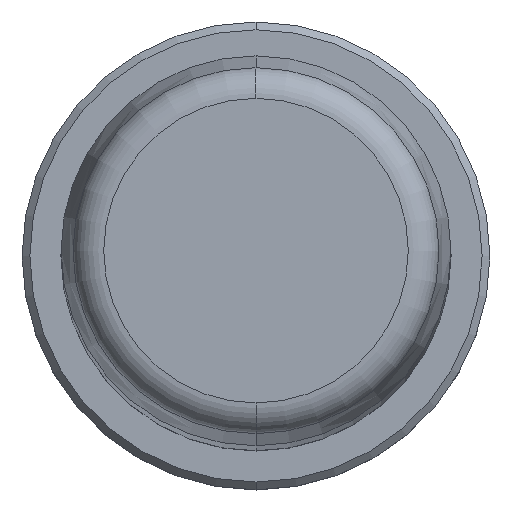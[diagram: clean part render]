
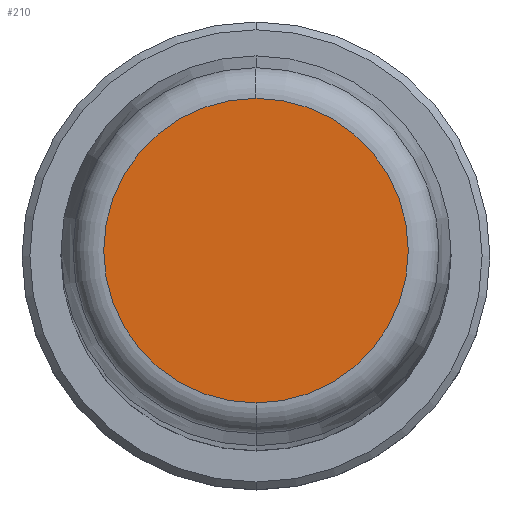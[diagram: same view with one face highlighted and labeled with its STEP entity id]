
A CAD part, top view. The second image highlights one B-rep face of the part: STEP entity #210.
In plain terms, the highlighted planar face has unit normal (0, 0, 1).
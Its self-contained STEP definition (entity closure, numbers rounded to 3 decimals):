
#1=CARTESIAN_POINT('',(0.,0.,200.));
#2=DIRECTION('',(0.,0.,-1.));
#3=DIRECTION('',(0.,-1.,0.));
#4=AXIS2_PLACEMENT_3D('',#1,#2,#3);
#6=CARTESIAN_POINT('',(0.,0.,200.));
#7=DIRECTION('',(0.,0.,-1.));
#8=DIRECTION('',(0.,1.,0.));
#9=AXIS2_PLACEMENT_3D('',#6,#7,#8);
#183=CARTESIAN_POINT('',(0.,-9.764,200.));
#184=CARTESIAN_POINT('',(0.,9.764,200.));
#185=VERTEX_POINT('',#183);
#186=VERTEX_POINT('',#184);
#199=CARTESIAN_POINT('',(0.,0.,200.));
#200=DIRECTION('',(0.,0.,1.));
#201=DIRECTION('',(0.,-1.,0.));
#202=AXIS2_PLACEMENT_3D('',#199,#200,#201);
#203=PLANE('',#202);
#205=ORIENTED_EDGE('',*,*,#204,.T.);
#207=ORIENTED_EDGE('',*,*,#206,.T.);
#208=EDGE_LOOP('',(#205,#207));
#209=FACE_OUTER_BOUND('',#208,.F.);
#210=ADVANCED_FACE('',(#209),#203,.T.);
#5=CIRCLE('',#4,9.764);
#10=CIRCLE('',#9,9.764);
#204=EDGE_CURVE('',#185,#186,#5,.T.);
#206=EDGE_CURVE('',#186,#185,#10,.T.);
